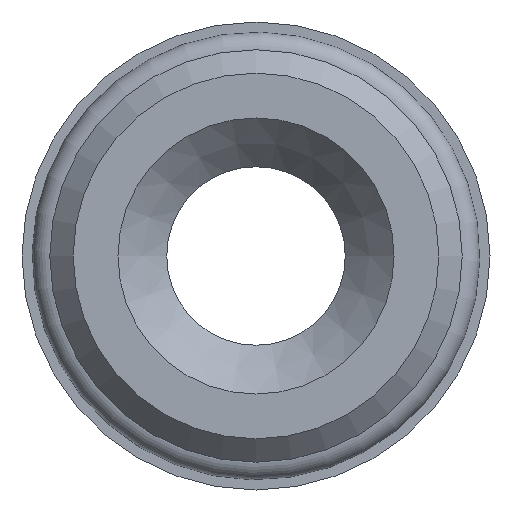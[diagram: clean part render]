
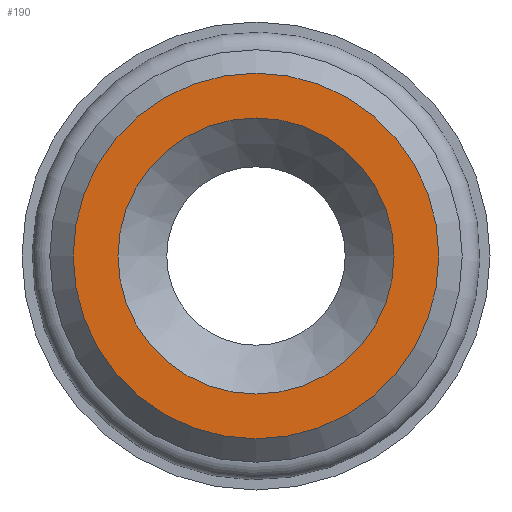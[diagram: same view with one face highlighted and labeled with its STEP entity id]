
A CAD part, front view. The second image highlights one B-rep face of the part: STEP entity #190.
In plain terms, the highlighted planar face has unit normal (0, -1, 0).
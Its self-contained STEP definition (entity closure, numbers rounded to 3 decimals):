
#190=ADVANCED_FACE('',(#486,#488),#490,.F.);
#486=FACE_BOUND('',#487,.T.);
#487=EDGE_LOOP('',(#1122));
#488=FACE_BOUND('',#489,.T.);
#489=EDGE_LOOP('',(#1123));
#490=PLANE('',#491);
#491=AXIS2_PLACEMENT_3D('',#492,#493,#494);
#492=CARTESIAN_POINT('',(0.,-9.,0.));
#493=DIRECTION('',(0.,1.,0.));
#494=DIRECTION('',(0.,0.,-1.));
#1122=ORIENTED_EDGE('',*,*,#1653,.F.);
#1123=ORIENTED_EDGE('',*,*,#1569,.T.);
#1569=EDGE_CURVE('',#1841,#1841,#1842,.F.);
#1653=EDGE_CURVE('',#1993,#1993,#1994,.T.);
#1841=VERTEX_POINT('',#2797);
#1842=CIRCLE('',#2798,8.85);
#1993=VERTEX_POINT('',#3459);
#1994=CIRCLE('',#3460,11.721);
#2797=CARTESIAN_POINT('',(8.85,-9.,0.));
#2798=AXIS2_PLACEMENT_3D('',#2799,#2800,#2801);
#2799=CARTESIAN_POINT('',(0.,-9.,0.));
#2800=DIRECTION('',(0.,-1.,0.));
#2801=DIRECTION('',(1.,0.,0.));
#3459=CARTESIAN_POINT('',(0.,-9.,-11.721));
#3460=AXIS2_PLACEMENT_3D('',#3461,#3462,#3463);
#3461=CARTESIAN_POINT('',(0.,-9.,0.));
#3462=DIRECTION('',(0.,1.,0.));
#3463=DIRECTION('',(0.,0.,-1.));
